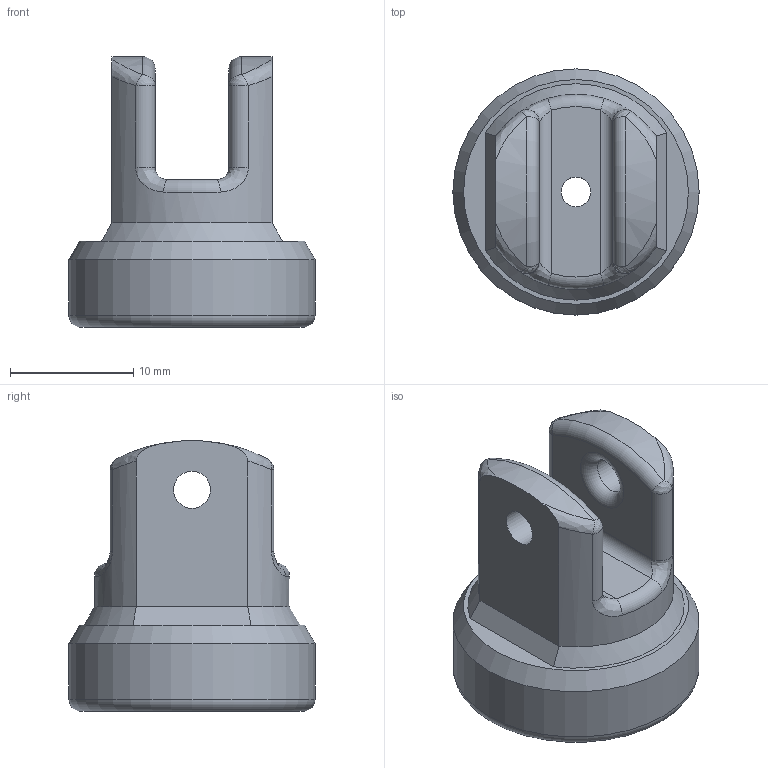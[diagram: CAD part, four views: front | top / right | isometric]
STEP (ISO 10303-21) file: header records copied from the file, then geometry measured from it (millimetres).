
FILE_DESCRIPTION(('STEP AP242'), '1');
FILE_NAME('äëÿ ìàãíèòà3', '', ('UNSPECIFIED'), ('UNSPECIFIED'), 'C3D Converter', 'C3D Toolkit', '');
FILE_SCHEMA(('AP242_MANAGED_MODEL_BASED_3D_ENGINEERING_MIM_LF { 1 0 10303 442 1 1 4 }'));
Length unit declared in the file: millimetre
Bounding box: 20 x 20 x 22 mm (x, y, z)
Volume: 2994.8 mm3; surface area: 2006.3 mm2
Topology: 1 solids, 1 shells, 48 faces, 107 edges, 59 vertices
Faces by surface type: cylinder 15, bspline 12, plane 10, torus 8, cone 3
Full cylindrical faces by diameter (mm): 2.4 x1, 3 x2, 15.96 x1, 20 x1
Entity records: 2960 total; most frequent: CARTESIAN_POINT 1587, ORIENTED_EDGE 186, DIRECTION 184, EDGE_CURVE 93, AXIS2_PLACEMENT_3D 82, EDGE_LOOP 66, VERTEX_POINT 59, COLOUR_RGB 49
